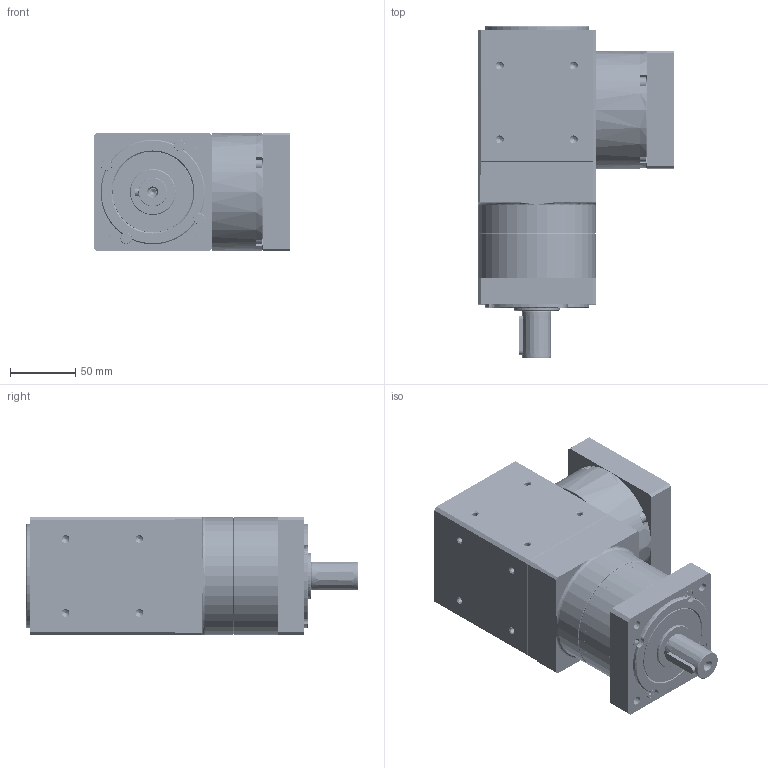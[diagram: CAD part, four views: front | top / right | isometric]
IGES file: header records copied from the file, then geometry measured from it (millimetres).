
Start section: SolidWorks IGES file using analytic representation for surfaces
Global section: file name: \\MYODRIVE\Public\CAD Files\Gearboxes\R-Gearboxes\QXAS\QLAS\QLAS-090-XXX\QLAS-090-0XX.IGS; native system: SolidWorks 2011; preprocessor: SolidWorks 2011; author: render; date: 120622.095722; units: millimetre
Bounding box: 150 x 254 x 90 mm (x, y, z)
Surface area: 436836.9 mm2 (no closed solid volume)
Topology: 0 solids, 0 shells, 2526 faces, 39021 edges, 38907 vertices
Faces by surface type: revolution 1740, bspline 786
